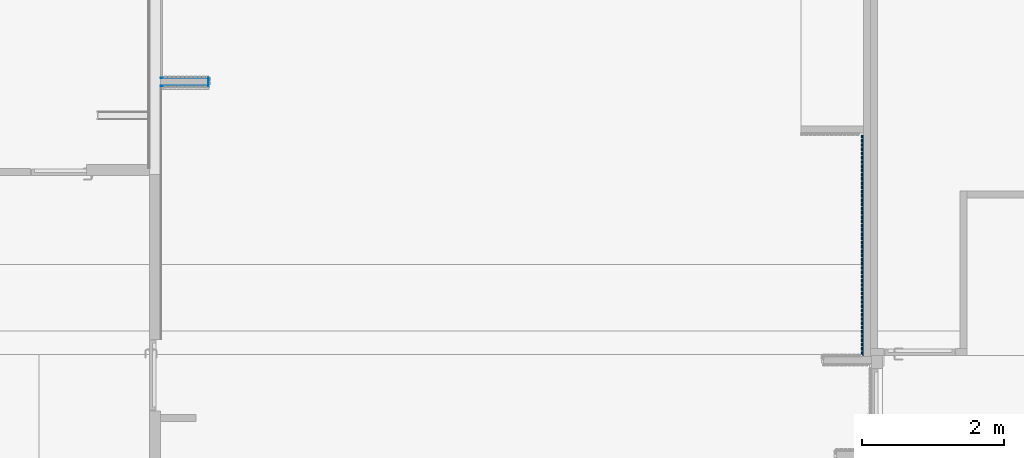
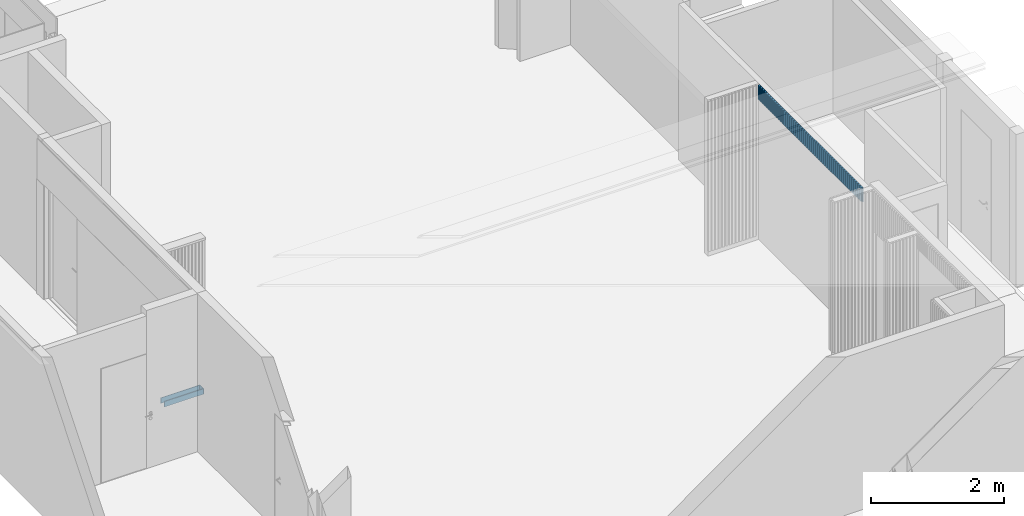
# One storey, part 19 of 37: 55 plates, 4 elements without a shape of their own.
"""IFC2X3 building model written with IfcOpenShell, lengths in millimetres."""

from ifc_helpers import new_model, entity, si_unit, converted_unit, derived_unit, direction, frame, frame_2d, origin, origin_with_axes, origin_2d_with_axis, place, context, subcontext, project, spatial, rectangle, extrude, source, transform, mapped, material, material_list, type_object, element, aggregate, save


model = new_model("IFC2X3")

# Units and contexts
model_context = context("Model", 3, precision=0.01, world=frame((0.0, 4.29681676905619e-09, 0.0)), true_north=direction((4.01073788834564e-13, 1.0)))
plan_context = context("Plan", 3, precision=0.01, world=frame((0.0, 4.29681676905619e-09, 0.0)), true_north=direction((4.01073788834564e-13, 1.0)))
body_context = subcontext(model_context, "Body", "Model", "MODEL_VIEW")
ifc_project = project(units=[converted_unit("PLANEANGLEUNIT", "DEGREE", entity("IfcPositiveLengthMeasure", 0.0174532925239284), si_unit("PLANEANGLEUNIT", "RADIAN"), dimensions=[0, 0, 0, 0, 0, 0, 0]), si_unit("AREAUNIT", "SQUARE_METRE"), si_unit("LENGTHUNIT", "METRE", prefix="MILLI"), si_unit("MASSUNIT", "GRAM", prefix="KILO"), si_unit("POWERUNIT", "WATT"), si_unit("PRESSUREUNIT", "PASCAL"), si_unit("FORCEUNIT", "NEWTON", prefix="KILO"), si_unit("ELECTRICVOLTAGEUNIT", "VOLT"), si_unit("ELECTRICCURRENTUNIT", "AMPERE"), si_unit("THERMODYNAMICTEMPERATUREUNIT", "DEGREE_CELSIUS"), si_unit("TIMEUNIT", "SECOND"), si_unit("VOLUMEUNIT", "CUBIC_METRE"), derived_unit("LINEARVELOCITYUNIT", [(si_unit("LENGTHUNIT", "METRE"), 1), (si_unit("TIMEUNIT", "SECOND"), -1)]), derived_unit("VOLUMETRICFLOWRATEUNIT", [(si_unit("VOLUMEUNIT", "CUBIC_METRE"), 1), (si_unit("TIMEUNIT", "SECOND"), -1)]), derived_unit("THERMALTRANSMITTANCEUNIT", [(si_unit("POWERUNIT", "WATT"), 1), (si_unit("THERMODYNAMICTEMPERATUREUNIT", "KELVIN"), -1), (si_unit("AREAUNIT", "SQUARE_METRE"), -1)]), derived_unit("SOUNDPRESSUREUNIT", [(si_unit("PRESSUREUNIT", "PASCAL"), 1)])], contexts=[model_context, plan_context])

# Site, building, storey
site_placement = place(None, origin_with_axes())
site = spatial("IfcSite", under=ifc_project, at=site_placement, Name="ENGM", CompositionType="ELEMENT")
building_placement = place(site_placement, origin_with_axes())
building = spatial("IfcBuilding", under=site, at=building_placement, Name="TS", CompositionType="ELEMENT")
storey_placement = place(building_placement, frame((0.0, 0.0, 210900.0), z_axis=(0.0, 0.0, 1.0), x_axis=(1.0, 0.0, 0.0)))
storey = spatial("IfcBuildingStorey", under=building, at=storey_placement, Name="Nivå F", CompositionType="ELEMENT", Elevation=210900.0)

# Curtain wall, plates
curtain_wall_type_1 = type_object("IfcCurtainWallType", PredefinedType="NOTDEFINED")
curtain_wall_1_placement = place(storey_placement, frame((0.0, 0.0, -210900.0), z_axis=(0.0, 0.0, 1.0), x_axis=(1.0, 0.0, 0.0)))
curtain_wall_1 = element("IfcCurtainWall", 1, at=curtain_wall_1_placement, inside=storey, type_object=curtain_wall_type_1)
ifc_material_1 = material(Name="MDF plate svart")
ifc_material_2 = material(Name="Wood")
ifc_material_list = material_list([ifc_material_1, ifc_material_2])
plate_type_1 = type_object("IfcPlateType", Name="Spiler_40 x 20:Spiler_40 x 20", PredefinedType="CURTAIN_PANEL", material=ifc_material_list)
shared_shape_1 = source(origin(), body_context, "Body", "SweptSolid", [
    extrude(rectangle(XDim=60.0, YDim=12.0, at=frame_2d((3.5527136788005e-15, 1.33226762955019e-15), x_axis=(1.0, 0.0))), frame((-10.0, 6.0, 0.0), z_axis=(0.0, 0.0, 1.0), x_axis=(-1.0, 0.0, 0.0)), (0.0, 0.0, 1.0), 260.00000000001),
    extrude(rectangle(XDim=20.0000000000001, YDim=39.9999999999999, at=frame_2d((0.0, 8.88178419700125e-15), x_axis=(1.0, 0.0))), frame((0.0, 22.0, 0.0), z_axis=(0.0, 0.0, 1.0), x_axis=(0.0, 1.0, 0.0)), (0.0, 0.0, 1.0), 260.00000000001),
])
plate_1_placement = place(curtain_wall_1_placement, frame((533465.499999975, 448110.846287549, 213500.0), z_axis=(0.0, 0.0, 1.0), x_axis=(0.0, 1.0, 0.0)))
plate_1 = element("IfcPlate", 2, at=plate_1_placement, type_object=plate_type_1, material=ifc_material_list, Name="Spiler_40 x 20:Spiler_40 x 20", ObjectType="Spiler_40 x 20:Spiler_40 x 20", context=body_context, shape_type="MappedRepresentation", body=[
    mapped(shared_shape_1, transform((0.0, 0.0, 0.0), scale=1.0)),
])
plate_type_2 = type_object("IfcPlateType", Name="Spiler_40 x 20:Spiler_40 x 20", PredefinedType="CURTAIN_PANEL", material=ifc_material_list)
plate_2_placement = place(curtain_wall_1_placement, frame((533465.499999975, 448170.846287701, 213500.0), z_axis=(0.0, 0.0, 1.0), x_axis=(0.0, 1.0, 0.0)))
plate_2 = element("IfcPlate", 3, at=plate_2_placement, type_object=plate_type_2, material=ifc_material_list, Name="Spiler_40 x 20:Spiler_40 x 20", ObjectType="Spiler_40 x 20:Spiler_40 x 20", context=body_context, shape_type="MappedRepresentation", body=[
    mapped(shared_shape_1, transform((0.0, 0.0, 0.0), scale=1.0)),
])
plate_3_placement = place(curtain_wall_1_placement, frame((533465.499999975, 448230.846287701, 213500.0), z_axis=(0.0, 0.0, 1.0), x_axis=(0.0, 1.0, 0.0)))
plate_3 = element("IfcPlate", 4, at=plate_3_placement, type_object=plate_type_2, material=ifc_material_list, Name="Spiler_40 x 20:Spiler_40 x 20", ObjectType="Spiler_40 x 20:Spiler_40 x 20", context=body_context, shape_type="MappedRepresentation", body=[
    mapped(shared_shape_1, transform((0.0, 0.0, 0.0), scale=1.0)),
])
plate_4_placement = place(curtain_wall_1_placement, frame((533465.499999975, 448290.846287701, 213500.0), z_axis=(0.0, 0.0, 1.0), x_axis=(0.0, 1.0, 0.0)))
plate_4 = element("IfcPlate", 5, at=plate_4_placement, type_object=plate_type_2, material=ifc_material_list, Name="Spiler_40 x 20:Spiler_40 x 20", ObjectType="Spiler_40 x 20:Spiler_40 x 20", context=body_context, shape_type="MappedRepresentation", body=[
    mapped(shared_shape_1, transform((0.0, 0.0, 0.0), scale=1.0)),
])
plate_5_placement = place(curtain_wall_1_placement, frame((533465.499999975, 448350.846287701, 213500.0), z_axis=(0.0, 0.0, 1.0), x_axis=(0.0, 1.0, 0.0)))
plate_5 = element("IfcPlate", 6, at=plate_5_placement, type_object=plate_type_2, material=ifc_material_list, Name="Spiler_40 x 20:Spiler_40 x 20", ObjectType="Spiler_40 x 20:Spiler_40 x 20", context=body_context, shape_type="MappedRepresentation", body=[
    mapped(shared_shape_1, transform((0.0, 0.0, 0.0), scale=1.0)),
])
plate_6_placement = place(curtain_wall_1_placement, frame((533465.499999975, 448410.846287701, 213500.0), z_axis=(0.0, 0.0, 1.0), x_axis=(0.0, 1.0, 0.0)))
plate_6 = element("IfcPlate", 7, at=plate_6_placement, type_object=plate_type_2, material=ifc_material_list, Name="Spiler_40 x 20:Spiler_40 x 20", ObjectType="Spiler_40 x 20:Spiler_40 x 20", context=body_context, shape_type="MappedRepresentation", body=[
    mapped(shared_shape_1, transform((0.0, 0.0, 0.0), scale=1.0)),
])
plate_7_placement = place(curtain_wall_1_placement, frame((533465.499999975, 448470.846287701, 213500.0), z_axis=(0.0, 0.0, 1.0), x_axis=(0.0, 1.0, 0.0)))
plate_7 = element("IfcPlate", 8, at=plate_7_placement, type_object=plate_type_2, material=ifc_material_list, Name="Spiler_40 x 20:Spiler_40 x 20", ObjectType="Spiler_40 x 20:Spiler_40 x 20", context=body_context, shape_type="MappedRepresentation", body=[
    mapped(shared_shape_1, transform((0.0, 0.0, 0.0), scale=1.0)),
])
plate_8_placement = place(curtain_wall_1_placement, frame((533465.499999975, 448530.846287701, 213500.0), z_axis=(0.0, 0.0, 1.0), x_axis=(0.0, 1.0, 0.0)))
plate_8 = element("IfcPlate", 9, at=plate_8_placement, type_object=plate_type_2, material=ifc_material_list, Name="Spiler_40 x 20:Spiler_40 x 20", ObjectType="Spiler_40 x 20:Spiler_40 x 20", context=body_context, shape_type="MappedRepresentation", body=[
    mapped(shared_shape_1, transform((0.0, 0.0, 0.0), scale=1.0)),
])
plate_9_placement = place(curtain_wall_1_placement, frame((533465.499999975, 448590.846287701, 213500.0), z_axis=(0.0, 0.0, 1.0), x_axis=(0.0, 1.0, 0.0)))
plate_9 = element("IfcPlate", 10, at=plate_9_placement, type_object=plate_type_2, material=ifc_material_list, Name="Spiler_40 x 20:Spiler_40 x 20", ObjectType="Spiler_40 x 20:Spiler_40 x 20", context=body_context, shape_type="MappedRepresentation", body=[
    mapped(shared_shape_1, transform((0.0, 0.0, 0.0), scale=1.0)),
])
plate_10_placement = place(curtain_wall_1_placement, frame((533465.499999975, 448650.846287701, 213500.0), z_axis=(0.0, 0.0, 1.0), x_axis=(0.0, 1.0, 0.0)))
plate_10 = element("IfcPlate", 11, at=plate_10_placement, type_object=plate_type_2, material=ifc_material_list, Name="Spiler_40 x 20:Spiler_40 x 20", ObjectType="Spiler_40 x 20:Spiler_40 x 20", context=body_context, shape_type="MappedRepresentation", body=[
    mapped(shared_shape_1, transform((0.0, 0.0, 0.0), scale=1.0)),
])
plate_11_placement = place(curtain_wall_1_placement, frame((533465.499999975, 448710.846287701, 213500.0), z_axis=(0.0, 0.0, 1.0), x_axis=(0.0, 1.0, 0.0)))
plate_11 = element("IfcPlate", 12, at=plate_11_placement, type_object=plate_type_2, material=ifc_material_list, Name="Spiler_40 x 20:Spiler_40 x 20", ObjectType="Spiler_40 x 20:Spiler_40 x 20", context=body_context, shape_type="MappedRepresentation", body=[
    mapped(shared_shape_1, transform((0.0, 0.0, 0.0), scale=1.0)),
])
plate_12_placement = place(curtain_wall_1_placement, frame((533465.499999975, 448770.846287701, 213500.0), z_axis=(0.0, 0.0, 1.0), x_axis=(0.0, 1.0, 0.0)))
plate_12 = element("IfcPlate", 13, at=plate_12_placement, type_object=plate_type_2, material=ifc_material_list, Name="Spiler_40 x 20:Spiler_40 x 20", ObjectType="Spiler_40 x 20:Spiler_40 x 20", context=body_context, shape_type="MappedRepresentation", body=[
    mapped(shared_shape_1, transform((0.0, 0.0, 0.0), scale=1.0)),
])
plate_13_placement = place(curtain_wall_1_placement, frame((533465.499999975, 448830.846287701, 213500.0), z_axis=(0.0, 0.0, 1.0), x_axis=(0.0, 1.0, 0.0)))
plate_13 = element("IfcPlate", 14, at=plate_13_placement, type_object=plate_type_2, material=ifc_material_list, Name="Spiler_40 x 20:Spiler_40 x 20", ObjectType="Spiler_40 x 20:Spiler_40 x 20", context=body_context, shape_type="MappedRepresentation", body=[
    mapped(shared_shape_1, transform((0.0, 0.0, 0.0), scale=1.0)),
])
plate_14_placement = place(curtain_wall_1_placement, frame((533465.499999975, 448890.846287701, 213500.0), z_axis=(0.0, 0.0, 1.0), x_axis=(0.0, 1.0, 0.0)))
plate_14 = element("IfcPlate", 15, at=plate_14_placement, type_object=plate_type_2, material=ifc_material_list, Name="Spiler_40 x 20:Spiler_40 x 20", ObjectType="Spiler_40 x 20:Spiler_40 x 20", context=body_context, shape_type="MappedRepresentation", body=[
    mapped(shared_shape_1, transform((0.0, 0.0, 0.0), scale=1.0)),
])
plate_15_placement = place(curtain_wall_1_placement, frame((533465.499999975, 448950.846287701, 213500.0), z_axis=(0.0, 0.0, 1.0), x_axis=(0.0, 1.0, 0.0)))
plate_15 = element("IfcPlate", 16, at=plate_15_placement, type_object=plate_type_2, material=ifc_material_list, Name="Spiler_40 x 20:Spiler_40 x 20", ObjectType="Spiler_40 x 20:Spiler_40 x 20", context=body_context, shape_type="MappedRepresentation", body=[
    mapped(shared_shape_1, transform((0.0, 0.0, 0.0), scale=1.0)),
])
plate_16_placement = place(curtain_wall_1_placement, frame((533465.499999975, 449010.846287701, 213500.0), z_axis=(0.0, 0.0, 1.0), x_axis=(0.0, 1.0, 0.0)))
plate_16 = element("IfcPlate", 17, at=plate_16_placement, type_object=plate_type_2, material=ifc_material_list, Name="Spiler_40 x 20:Spiler_40 x 20", ObjectType="Spiler_40 x 20:Spiler_40 x 20", context=body_context, shape_type="MappedRepresentation", body=[
    mapped(shared_shape_1, transform((0.0, 0.0, 0.0), scale=1.0)),
])
plate_17_placement = place(curtain_wall_1_placement, frame((533465.499999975, 449070.846287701, 213500.0), z_axis=(0.0, 0.0, 1.0), x_axis=(0.0, 1.0, 0.0)))
plate_17 = element("IfcPlate", 18, at=plate_17_placement, type_object=plate_type_2, material=ifc_material_list, Name="Spiler_40 x 20:Spiler_40 x 20", ObjectType="Spiler_40 x 20:Spiler_40 x 20", context=body_context, shape_type="MappedRepresentation", body=[
    mapped(shared_shape_1, transform((0.0, 0.0, 0.0), scale=1.0)),
])
plate_18_placement = place(curtain_wall_1_placement, frame((533465.499999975, 449130.846287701, 213500.0), z_axis=(0.0, 0.0, 1.0), x_axis=(0.0, 1.0, 0.0)))
plate_18 = element("IfcPlate", 19, at=plate_18_placement, type_object=plate_type_2, material=ifc_material_list, Name="Spiler_40 x 20:Spiler_40 x 20", ObjectType="Spiler_40 x 20:Spiler_40 x 20", context=body_context, shape_type="MappedRepresentation", body=[
    mapped(shared_shape_1, transform((0.0, 0.0, 0.0), scale=1.0)),
])
plate_19_placement = place(curtain_wall_1_placement, frame((533465.499999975, 449190.846287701, 213500.0), z_axis=(0.0, 0.0, 1.0), x_axis=(0.0, 1.0, 0.0)))
plate_19 = element("IfcPlate", 20, at=plate_19_placement, type_object=plate_type_2, material=ifc_material_list, Name="Spiler_40 x 20:Spiler_40 x 20", ObjectType="Spiler_40 x 20:Spiler_40 x 20", context=body_context, shape_type="MappedRepresentation", body=[
    mapped(shared_shape_1, transform((0.0, 0.0, 0.0), scale=1.0)),
])
plate_20_placement = place(curtain_wall_1_placement, frame((533465.499999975, 449250.846287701, 213500.0), z_axis=(0.0, 0.0, 1.0), x_axis=(0.0, 1.0, 0.0)))
plate_20 = element("IfcPlate", 21, at=plate_20_placement, type_object=plate_type_2, material=ifc_material_list, Name="Spiler_40 x 20:Spiler_40 x 20", ObjectType="Spiler_40 x 20:Spiler_40 x 20", context=body_context, shape_type="MappedRepresentation", body=[
    mapped(shared_shape_1, transform((0.0, 0.0, 0.0), scale=1.0)),
])
plate_21_placement = place(curtain_wall_1_placement, frame((533465.499999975, 449310.846287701, 213500.0), z_axis=(0.0, 0.0, 1.0), x_axis=(0.0, 1.0, 0.0)))
plate_21 = element("IfcPlate", 22, at=plate_21_placement, type_object=plate_type_2, material=ifc_material_list, Name="Spiler_40 x 20:Spiler_40 x 20", ObjectType="Spiler_40 x 20:Spiler_40 x 20", context=body_context, shape_type="MappedRepresentation", body=[
    mapped(shared_shape_1, transform((0.0, 0.0, 0.0), scale=1.0)),
])
plate_22_placement = place(curtain_wall_1_placement, frame((533465.499999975, 449370.846287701, 213500.0), z_axis=(0.0, 0.0, 1.0), x_axis=(0.0, 1.0, 0.0)))
plate_22 = element("IfcPlate", 23, at=plate_22_placement, type_object=plate_type_2, material=ifc_material_list, Name="Spiler_40 x 20:Spiler_40 x 20", ObjectType="Spiler_40 x 20:Spiler_40 x 20", context=body_context, shape_type="MappedRepresentation", body=[
    mapped(shared_shape_1, transform((0.0, 0.0, 0.0), scale=1.0)),
])
plate_23_placement = place(curtain_wall_1_placement, frame((533465.499999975, 449430.846287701, 213500.0), z_axis=(0.0, 0.0, 1.0), x_axis=(0.0, 1.0, 0.0)))
plate_23 = element("IfcPlate", 24, at=plate_23_placement, type_object=plate_type_2, material=ifc_material_list, Name="Spiler_40 x 20:Spiler_40 x 20", ObjectType="Spiler_40 x 20:Spiler_40 x 20", context=body_context, shape_type="MappedRepresentation", body=[
    mapped(shared_shape_1, transform((0.0, 0.0, 0.0), scale=1.0)),
])
plate_24_placement = place(curtain_wall_1_placement, frame((533465.499999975, 449490.846287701, 213500.0), z_axis=(0.0, 0.0, 1.0), x_axis=(0.0, 1.0, 0.0)))
plate_24 = element("IfcPlate", 25, at=plate_24_placement, type_object=plate_type_2, material=ifc_material_list, Name="Spiler_40 x 20:Spiler_40 x 20", ObjectType="Spiler_40 x 20:Spiler_40 x 20", context=body_context, shape_type="MappedRepresentation", body=[
    mapped(shared_shape_1, transform((0.0, 0.0, 0.0), scale=1.0)),
])
plate_25_placement = place(curtain_wall_1_placement, frame((533465.499999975, 449550.846287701, 213500.0), z_axis=(0.0, 0.0, 1.0), x_axis=(0.0, 1.0, 0.0)))
plate_25 = element("IfcPlate", 26, at=plate_25_placement, type_object=plate_type_2, material=ifc_material_list, Name="Spiler_40 x 20:Spiler_40 x 20", ObjectType="Spiler_40 x 20:Spiler_40 x 20", context=body_context, shape_type="MappedRepresentation", body=[
    mapped(shared_shape_1, transform((0.0, 0.0, 0.0), scale=1.0)),
])
plate_26_placement = place(curtain_wall_1_placement, frame((533465.499999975, 449610.846287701, 213500.0), z_axis=(0.0, 0.0, 1.0), x_axis=(0.0, 1.0, 0.0)))
plate_26 = element("IfcPlate", 27, at=plate_26_placement, type_object=plate_type_2, material=ifc_material_list, Name="Spiler_40 x 20:Spiler_40 x 20", ObjectType="Spiler_40 x 20:Spiler_40 x 20", context=body_context, shape_type="MappedRepresentation", body=[
    mapped(shared_shape_1, transform((0.0, 0.0, 0.0), scale=1.0)),
])
plate_27_placement = place(curtain_wall_1_placement, frame((533465.499999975, 449670.846287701, 213500.0), z_axis=(0.0, 0.0, 1.0), x_axis=(0.0, 1.0, 0.0)))
plate_27 = element("IfcPlate", 28, at=plate_27_placement, type_object=plate_type_2, material=ifc_material_list, Name="Spiler_40 x 20:Spiler_40 x 20", ObjectType="Spiler_40 x 20:Spiler_40 x 20", context=body_context, shape_type="MappedRepresentation", body=[
    mapped(shared_shape_1, transform((0.0, 0.0, 0.0), scale=1.0)),
])
plate_28_placement = place(curtain_wall_1_placement, frame((533465.499999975, 449730.846287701, 213500.0), z_axis=(0.0, 0.0, 1.0), x_axis=(0.0, 1.0, 0.0)))
plate_28 = element("IfcPlate", 29, at=plate_28_placement, type_object=plate_type_2, material=ifc_material_list, Name="Spiler_40 x 20:Spiler_40 x 20", ObjectType="Spiler_40 x 20:Spiler_40 x 20", context=body_context, shape_type="MappedRepresentation", body=[
    mapped(shared_shape_1, transform((0.0, 0.0, 0.0), scale=1.0)),
])
plate_29_placement = place(curtain_wall_1_placement, frame((533465.499999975, 449790.846287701, 213500.0), z_axis=(0.0, 0.0, 1.0), x_axis=(0.0, 1.0, 0.0)))
plate_29 = element("IfcPlate", 30, at=plate_29_placement, type_object=plate_type_2, material=ifc_material_list, Name="Spiler_40 x 20:Spiler_40 x 20", ObjectType="Spiler_40 x 20:Spiler_40 x 20", context=body_context, shape_type="MappedRepresentation", body=[
    mapped(shared_shape_1, transform((0.0, 0.0, 0.0), scale=1.0)),
])
plate_30_placement = place(curtain_wall_1_placement, frame((533465.499999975, 449850.846287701, 213500.0), z_axis=(0.0, 0.0, 1.0), x_axis=(0.0, 1.0, 0.0)))
plate_30 = element("IfcPlate", 31, at=plate_30_placement, type_object=plate_type_2, material=ifc_material_list, Name="Spiler_40 x 20:Spiler_40 x 20", ObjectType="Spiler_40 x 20:Spiler_40 x 20", context=body_context, shape_type="MappedRepresentation", body=[
    mapped(shared_shape_1, transform((0.0, 0.0, 0.0), scale=1.0)),
])
plate_31_placement = place(curtain_wall_1_placement, frame((533465.499999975, 449910.846287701, 213500.0), z_axis=(0.0, 0.0, 1.0), x_axis=(0.0, 1.0, 0.0)))
plate_31 = element("IfcPlate", 32, at=plate_31_placement, type_object=plate_type_2, material=ifc_material_list, Name="Spiler_40 x 20:Spiler_40 x 20", ObjectType="Spiler_40 x 20:Spiler_40 x 20", context=body_context, shape_type="MappedRepresentation", body=[
    mapped(shared_shape_1, transform((0.0, 0.0, 0.0), scale=1.0)),
])
plate_32_placement = place(curtain_wall_1_placement, frame((533465.499999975, 449970.846287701, 213500.0), z_axis=(0.0, 0.0, 1.0), x_axis=(0.0, 1.0, 0.0)))
plate_32 = element("IfcPlate", 33, at=plate_32_placement, type_object=plate_type_2, material=ifc_material_list, Name="Spiler_40 x 20:Spiler_40 x 20", ObjectType="Spiler_40 x 20:Spiler_40 x 20", context=body_context, shape_type="MappedRepresentation", body=[
    mapped(shared_shape_1, transform((0.0, 0.0, 0.0), scale=1.0)),
])
plate_33_placement = place(curtain_wall_1_placement, frame((533465.499999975, 450030.846287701, 213500.0), z_axis=(0.0, 0.0, 1.0), x_axis=(0.0, 1.0, 0.0)))
plate_33 = element("IfcPlate", 34, at=plate_33_placement, type_object=plate_type_2, material=ifc_material_list, Name="Spiler_40 x 20:Spiler_40 x 20", ObjectType="Spiler_40 x 20:Spiler_40 x 20", context=body_context, shape_type="MappedRepresentation", body=[
    mapped(shared_shape_1, transform((0.0, 0.0, 0.0), scale=1.0)),
])
plate_34_placement = place(curtain_wall_1_placement, frame((533465.499999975, 450090.846287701, 213500.0), z_axis=(0.0, 0.0, 1.0), x_axis=(0.0, 1.0, 0.0)))
plate_34 = element("IfcPlate", 35, at=plate_34_placement, type_object=plate_type_2, material=ifc_material_list, Name="Spiler_40 x 20:Spiler_40 x 20", ObjectType="Spiler_40 x 20:Spiler_40 x 20", context=body_context, shape_type="MappedRepresentation", body=[
    mapped(shared_shape_1, transform((0.0, 0.0, 0.0), scale=1.0)),
])
plate_35_placement = place(curtain_wall_1_placement, frame((533465.499999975, 450150.846287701, 213500.0), z_axis=(0.0, 0.0, 1.0), x_axis=(0.0, 1.0, 0.0)))
plate_35 = element("IfcPlate", 36, at=plate_35_placement, type_object=plate_type_2, material=ifc_material_list, Name="Spiler_40 x 20:Spiler_40 x 20", ObjectType="Spiler_40 x 20:Spiler_40 x 20", context=body_context, shape_type="MappedRepresentation", body=[
    mapped(shared_shape_1, transform((0.0, 0.0, 0.0), scale=1.0)),
])
plate_36_placement = place(curtain_wall_1_placement, frame((533465.499999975, 450210.846287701, 213500.0), z_axis=(0.0, 0.0, 1.0), x_axis=(0.0, 1.0, 0.0)))
plate_36 = element("IfcPlate", 37, at=plate_36_placement, type_object=plate_type_2, material=ifc_material_list, Name="Spiler_40 x 20:Spiler_40 x 20", ObjectType="Spiler_40 x 20:Spiler_40 x 20", context=body_context, shape_type="MappedRepresentation", body=[
    mapped(shared_shape_1, transform((0.0, 0.0, 0.0), scale=1.0)),
])
plate_37_placement = place(curtain_wall_1_placement, frame((533465.499999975, 450270.846287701, 213500.0), z_axis=(0.0, 0.0, 1.0), x_axis=(0.0, 1.0, 0.0)))
plate_37 = element("IfcPlate", 38, at=plate_37_placement, type_object=plate_type_2, material=ifc_material_list, Name="Spiler_40 x 20:Spiler_40 x 20", ObjectType="Spiler_40 x 20:Spiler_40 x 20", context=body_context, shape_type="MappedRepresentation", body=[
    mapped(shared_shape_1, transform((0.0, 0.0, 0.0), scale=1.0)),
])
plate_38_placement = place(curtain_wall_1_placement, frame((533465.499999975, 450330.846287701, 213500.0), z_axis=(0.0, 0.0, 1.0), x_axis=(0.0, 1.0, 0.0)))
plate_38 = element("IfcPlate", 39, at=plate_38_placement, type_object=plate_type_2, material=ifc_material_list, Name="Spiler_40 x 20:Spiler_40 x 20", ObjectType="Spiler_40 x 20:Spiler_40 x 20", context=body_context, shape_type="MappedRepresentation", body=[
    mapped(shared_shape_1, transform((0.0, 0.0, 0.0), scale=1.0)),
])
plate_39_placement = place(curtain_wall_1_placement, frame((533465.499999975, 450390.846287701, 213500.0), z_axis=(0.0, 0.0, 1.0), x_axis=(0.0, 1.0, 0.0)))
plate_39 = element("IfcPlate", 40, at=plate_39_placement, type_object=plate_type_2, material=ifc_material_list, Name="Spiler_40 x 20:Spiler_40 x 20", ObjectType="Spiler_40 x 20:Spiler_40 x 20", context=body_context, shape_type="MappedRepresentation", body=[
    mapped(shared_shape_1, transform((0.0, 0.0, 0.0), scale=1.0)),
])
plate_40_placement = place(curtain_wall_1_placement, frame((533465.499999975, 450450.846287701, 213500.0), z_axis=(0.0, 0.0, 1.0), x_axis=(0.0, 1.0, 0.0)))
plate_40 = element("IfcPlate", 41, at=plate_40_placement, type_object=plate_type_2, material=ifc_material_list, Name="Spiler_40 x 20:Spiler_40 x 20", ObjectType="Spiler_40 x 20:Spiler_40 x 20", context=body_context, shape_type="MappedRepresentation", body=[
    mapped(shared_shape_1, transform((0.0, 0.0, 0.0), scale=1.0)),
])
plate_41_placement = place(curtain_wall_1_placement, frame((533465.499999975, 450510.846287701, 213500.0), z_axis=(0.0, 0.0, 1.0), x_axis=(0.0, 1.0, 0.0)))
plate_41 = element("IfcPlate", 42, at=plate_41_placement, type_object=plate_type_2, material=ifc_material_list, Name="Spiler_40 x 20:Spiler_40 x 20", ObjectType="Spiler_40 x 20:Spiler_40 x 20", context=body_context, shape_type="MappedRepresentation", body=[
    mapped(shared_shape_1, transform((0.0, 0.0, 0.0), scale=1.0)),
])
plate_42_placement = place(curtain_wall_1_placement, frame((533465.499999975, 450570.846287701, 213500.0), z_axis=(0.0, 0.0, 1.0), x_axis=(0.0, 1.0, 0.0)))
plate_42 = element("IfcPlate", 43, at=plate_42_placement, type_object=plate_type_2, material=ifc_material_list, Name="Spiler_40 x 20:Spiler_40 x 20", ObjectType="Spiler_40 x 20:Spiler_40 x 20", context=body_context, shape_type="MappedRepresentation", body=[
    mapped(shared_shape_1, transform((0.0, 0.0, 0.0), scale=1.0)),
])
plate_43_placement = place(curtain_wall_1_placement, frame((533465.499999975, 450630.846287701, 213500.0), z_axis=(0.0, 0.0, 1.0), x_axis=(0.0, 1.0, 0.0)))
plate_43 = element("IfcPlate", 44, at=plate_43_placement, type_object=plate_type_2, material=ifc_material_list, Name="Spiler_40 x 20:Spiler_40 x 20", ObjectType="Spiler_40 x 20:Spiler_40 x 20", context=body_context, shape_type="MappedRepresentation", body=[
    mapped(shared_shape_1, transform((0.0, 0.0, 0.0), scale=1.0)),
])
plate_44_placement = place(curtain_wall_1_placement, frame((533465.499999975, 450690.846287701, 213500.0), z_axis=(0.0, 0.0, 1.0), x_axis=(0.0, 1.0, 0.0)))
plate_44 = element("IfcPlate", 45, at=plate_44_placement, type_object=plate_type_2, material=ifc_material_list, Name="Spiler_40 x 20:Spiler_40 x 20", ObjectType="Spiler_40 x 20:Spiler_40 x 20", context=body_context, shape_type="MappedRepresentation", body=[
    mapped(shared_shape_1, transform((0.0, 0.0, 0.0), scale=1.0)),
])
plate_45_placement = place(curtain_wall_1_placement, frame((533465.499999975, 450750.846287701, 213500.0), z_axis=(0.0, 0.0, 1.0), x_axis=(0.0, 1.0, 0.0)))
plate_45 = element("IfcPlate", 46, at=plate_45_placement, type_object=plate_type_2, material=ifc_material_list, Name="Spiler_40 x 20:Spiler_40 x 20", ObjectType="Spiler_40 x 20:Spiler_40 x 20", context=body_context, shape_type="MappedRepresentation", body=[
    mapped(shared_shape_1, transform((0.0, 0.0, 0.0), scale=1.0)),
])
plate_46_placement = place(curtain_wall_1_placement, frame((533465.499999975, 450810.846287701, 213500.0), z_axis=(0.0, 0.0, 1.0), x_axis=(0.0, 1.0, 0.0)))
plate_46 = element("IfcPlate", 47, at=plate_46_placement, type_object=plate_type_2, material=ifc_material_list, Name="Spiler_40 x 20:Spiler_40 x 20", ObjectType="Spiler_40 x 20:Spiler_40 x 20", context=body_context, shape_type="MappedRepresentation", body=[
    mapped(shared_shape_1, transform((0.0, 0.0, 0.0), scale=1.0)),
])
plate_47_placement = place(curtain_wall_1_placement, frame((533465.499999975, 450870.846287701, 213500.0), z_axis=(0.0, 0.0, 1.0), x_axis=(0.0, 1.0, 0.0)))
plate_47 = element("IfcPlate", 48, at=plate_47_placement, type_object=plate_type_2, material=ifc_material_list, Name="Spiler_40 x 20:Spiler_40 x 20", ObjectType="Spiler_40 x 20:Spiler_40 x 20", context=body_context, shape_type="MappedRepresentation", body=[
    mapped(shared_shape_1, transform((0.0, 0.0, 0.0), scale=1.0)),
])
plate_48_placement = place(curtain_wall_1_placement, frame((533465.499999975, 450930.846287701, 213500.0), z_axis=(0.0, 0.0, 1.0), x_axis=(0.0, 1.0, 0.0)))
plate_48 = element("IfcPlate", 49, at=plate_48_placement, type_object=plate_type_2, material=ifc_material_list, Name="Spiler_40 x 20:Spiler_40 x 20", ObjectType="Spiler_40 x 20:Spiler_40 x 20", context=body_context, shape_type="MappedRepresentation", body=[
    mapped(shared_shape_1, transform((0.0, 0.0, 0.0), scale=1.0)),
])
plate_49_placement = place(curtain_wall_1_placement, frame((533465.499999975, 450990.846287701, 213500.0), z_axis=(0.0, 0.0, 1.0), x_axis=(0.0, 1.0, 0.0)))
plate_49 = element("IfcPlate", 50, at=plate_49_placement, type_object=plate_type_2, material=ifc_material_list, Name="Spiler_40 x 20:Spiler_40 x 20", ObjectType="Spiler_40 x 20:Spiler_40 x 20", context=body_context, shape_type="MappedRepresentation", body=[
    mapped(shared_shape_1, transform((0.0, 0.0, 0.0), scale=1.0)),
])
plate_50_placement = place(curtain_wall_1_placement, frame((533465.499999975, 451050.846287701, 213500.0), z_axis=(0.0, 0.0, 1.0), x_axis=(0.0, 1.0, 0.0)))
plate_50 = element("IfcPlate", 51, at=plate_50_placement, type_object=plate_type_2, material=ifc_material_list, Name="Spiler_40 x 20:Spiler_40 x 20", ObjectType="Spiler_40 x 20:Spiler_40 x 20", context=body_context, shape_type="MappedRepresentation", body=[
    mapped(shared_shape_1, transform((0.0, 0.0, 0.0), scale=1.0)),
])
plate_51_placement = place(curtain_wall_1_placement, frame((533465.499999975, 451110.846287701, 213500.0), z_axis=(0.0, 0.0, 1.0), x_axis=(0.0, 1.0, 0.0)))
plate_51 = element("IfcPlate", 52, at=plate_51_placement, type_object=plate_type_2, material=ifc_material_list, Name="Spiler_40 x 20:Spiler_40 x 20", ObjectType="Spiler_40 x 20:Spiler_40 x 20", context=body_context, shape_type="MappedRepresentation", body=[
    mapped(shared_shape_1, transform((0.0, 0.0, 0.0), scale=1.0)),
])
plate_type_3 = type_object("IfcPlateType", Name="Spiler_40 x 20:Spiler_40 x 20", PredefinedType="CURTAIN_PANEL", material=ifc_material_list)
plate_52_placement = place(curtain_wall_1_placement, frame((533465.499999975, 451170.846287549, 213500.0), z_axis=(0.0, 0.0, 1.0), x_axis=(0.0, 1.0, 0.0)))
plate_52 = element("IfcPlate", 53, at=plate_52_placement, type_object=plate_type_3, material=ifc_material_list, Name="Spiler_40 x 20:Spiler_40 x 20", ObjectType="Spiler_40 x 20:Spiler_40 x 20", context=body_context, shape_type="MappedRepresentation", body=[
    mapped(shared_shape_1, transform((0.0, 0.0, 0.0), scale=1.0)),
])
aggregate(curtain_wall_1, [plate_1, plate_2, plate_3, plate_4, plate_5, plate_6, plate_7, plate_8, plate_9, plate_10, plate_11, plate_12, plate_13, plate_14, plate_15, plate_16, plate_17, plate_18, plate_19, plate_20, plate_21, plate_22, plate_23, plate_24, plate_25, plate_26, plate_27, plate_28, plate_29, plate_30, plate_31, plate_32, plate_33, plate_34, plate_35, plate_36, plate_37, plate_38, plate_39, plate_40, plate_41, plate_42, plate_43, plate_44, plate_45, plate_46, plate_47, plate_48, plate_49, plate_50, plate_51, plate_52])

# Curtain wall, plate
curtain_wall_type_2 = type_object("IfcCurtainWallType", PredefinedType="NOTDEFINED")
curtain_wall_2_placement = place(storey_placement, frame((0.0, 0.0, -210900.0), z_axis=(0.0, 0.0, 1.0), x_axis=(1.0, 0.0, 0.0)))
curtain_wall_2 = element("IfcCurtainWall", 54, at=curtain_wall_2_placement, inside=storey, type_object=curtain_wall_type_2)
ifc_material_3 = material(Name="_NSW Stål, rustfritt")
plate_type_4 = type_object("IfcPlateType", Name="System Panel:A245 - KL-S01 - Veggkledning metallplate sokkel - IGK - 10mm", PredefinedType="CURTAIN_PANEL", material=ifc_material_3)
shared_shape_2 = source(origin(), body_context, "Body", "SweptSolid", [
    extrude(rectangle(XDim=10.0, YDim=673.000000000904, at=origin_2d_with_axis()), frame((0.0, -5.0, 0.0), z_axis=(0.0, 0.0, 1.0), x_axis=(0.0, 1.0, 0.0)), (0.0, 0.0, 1.0), 100.000000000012),
])
plate_53_placement = place(curtain_wall_2_placement, frame((523871.000000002, 451889.919299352, 210900.0), z_axis=(0.0, 0.0, 1.0), x_axis=(1.0, 0.0, 0.0)))
plate_53 = element("IfcPlate", 55, at=plate_53_placement, type_object=plate_type_4, material=ifc_material_3, Name="System Panel:A245 - KL-S01 - Veggkledning metallplate sokkel - IGK - 10mm", ObjectType="System Panel:A245 - KL-S01 - Veggkledning metallplate sokkel - IGK - 10mm", context=body_context, shape_type="MappedRepresentation", body=[
    mapped(shared_shape_2, transform((0.0, 0.0, 0.0), scale=1.0)),
])
aggregate(curtain_wall_2, [plate_53])

curtain_wall_3_placement = place(storey_placement, frame((0.0, 0.0, -210900.0), z_axis=(0.0, 0.0, 1.0), x_axis=(1.0, 0.0, 0.0)))
curtain_wall_3 = element("IfcCurtainWall", 56, at=curtain_wall_3_placement, inside=storey, type_object=curtain_wall_type_2)
plate_type_5 = type_object("IfcPlateType", Name="System Panel:A245 - KL-S01 - Veggkledning metallplate sokkel - IGK - 10mm", PredefinedType="CURTAIN_PANEL", material=ifc_material_3)
shared_shape_3 = source(origin(), body_context, "Body", "SweptSolid", [
    extrude(rectangle(XDim=10.0, YDim=120.000000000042, at=origin_2d_with_axis()), frame((0.0, -5.0, 0.0), z_axis=(0.0, 0.0, 1.0), x_axis=(0.0, 1.0, 0.0)), (0.0, 0.0, 1.0), 100.000000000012),
])
plate_54_placement = place(curtain_wall_3_placement, frame((524207.500000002, 451939.919299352, 210900.0), z_axis=(0.0, 0.0, 1.0), x_axis=(0.0, 1.0, 0.0)))
plate_54 = element("IfcPlate", 57, at=plate_54_placement, type_object=plate_type_5, material=ifc_material_3, Name="System Panel:A245 - KL-S01 - Veggkledning metallplate sokkel - IGK - 10mm", ObjectType="System Panel:A245 - KL-S01 - Veggkledning metallplate sokkel - IGK - 10mm", context=body_context, shape_type="MappedRepresentation", body=[
    mapped(shared_shape_3, transform((0.0, 0.0, 0.0), scale=1.0)),
])
aggregate(curtain_wall_3, [plate_54])

curtain_wall_4_placement = place(storey_placement, frame((0.0, 0.0, -210900.0), z_axis=(0.0, 0.0, 1.0), x_axis=(1.0, 0.0, 0.0)))
curtain_wall_4 = element("IfcCurtainWall", 58, at=curtain_wall_4_placement, inside=storey, type_object=curtain_wall_type_2)
plate_type_6 = type_object("IfcPlateType", Name="System Panel:A245 - KL-S01 - Veggkledning metallplate sokkel - IGK - 10mm", PredefinedType="CURTAIN_PANEL", material=ifc_material_3)
shared_shape_4 = source(origin(), body_context, "Body", "SweptSolid", [
    extrude(rectangle(XDim=10.0, YDim=673.000000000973, at=origin_2d_with_axis()), frame((0.0, 5.0, 0.0), z_axis=(0.0, 0.0, 1.0), x_axis=(0.0, 1.0, 0.0)), (0.0, 0.0, 1.0), 100.000000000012),
])
plate_55_placement = place(curtain_wall_4_placement, frame((523871.000000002, 451989.919299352, 210900.0), z_axis=(0.0, 0.0, 1.0), x_axis=(1.0, 0.0, 0.0)))
plate_55 = element("IfcPlate", 59, at=plate_55_placement, type_object=plate_type_6, material=ifc_material_3, Name="System Panel:A245 - KL-S01 - Veggkledning metallplate sokkel - IGK - 10mm", ObjectType="System Panel:A245 - KL-S01 - Veggkledning metallplate sokkel - IGK - 10mm", context=body_context, shape_type="MappedRepresentation", body=[
    mapped(shared_shape_4, transform((0.0, 0.0, 0.0), scale=1.0)),
])
aggregate(curtain_wall_4, [plate_55])

save(model, "model.ifc")
